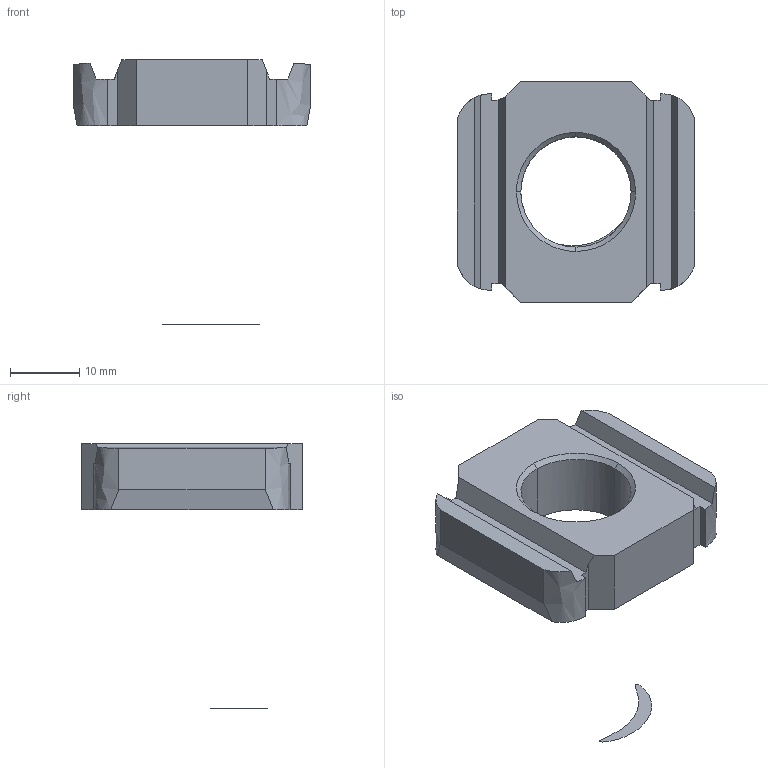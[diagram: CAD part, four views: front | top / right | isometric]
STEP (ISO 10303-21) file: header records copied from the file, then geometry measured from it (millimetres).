
FILE_DESCRIPTION(('TurboCAD Mac Pro'),'Build 980');
FILE_NAME('P1012S.stp',' ',(''),(''),'ACIS Interop','IMSI','TurboCAD Mac Pro BY IMSI, INCORPORATED');
FILE_SCHEMA(('automotive_design'));
Length unit declared in the file: inch
Products named in the file (1): 1
Bounding box: 34.16 x 31.75 x 38.1 mm (x, y, z)
Surface area: 3341.6 mm2 (no closed solid volume)
Topology: 0 solids, 2 shells, 43 faces, 123 edges, 82 vertices
Faces by surface type: plane 31, bspline 12
Entity records: 4617 total; most frequent: CARTESIAN_POINT 3205, ORIENTED_EDGE 250, DIRECTION 145, EDGE_CURVE 125, VERTEX_POINT 82, LINE 81, VECTOR 81, EDGE_LOOP 47
